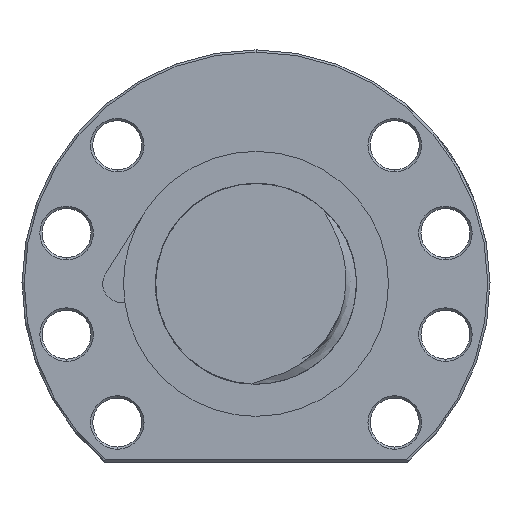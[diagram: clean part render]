
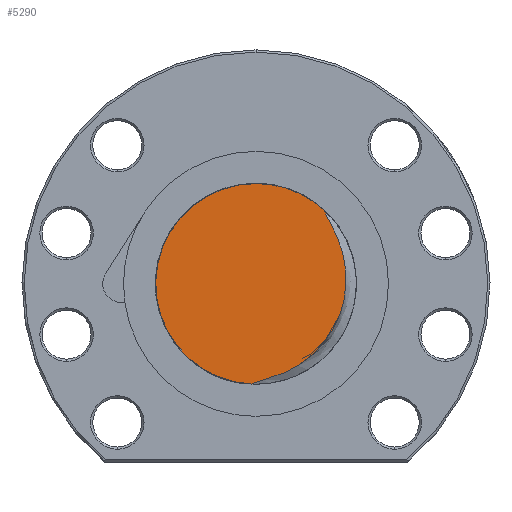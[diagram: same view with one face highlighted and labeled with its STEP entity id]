
A CAD part, left-side view. The second image highlights one B-rep face of the part: STEP entity #5290.
In plain terms, the highlighted planar face has unit normal (-1, 0, 0).
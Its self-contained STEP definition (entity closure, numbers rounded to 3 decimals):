
#5143 = EDGE_CURVE ( 'NONE', #5144, #5145, #37319, .T. ) ;
#5144 = VERTEX_POINT ( 'NONE', #37315 ) ;
#5145 = VERTEX_POINT ( 'NONE', #37310 ) ;
#5261 = ORIENTED_EDGE ( 'NONE', *, *, #5143, .F. ) ;
#5262 = ORIENTED_EDGE ( 'NONE', *, *, #5297, .T. ) ;
#5271 = EDGE_LOOP ( 'NONE', ( #5261, #5262, #5298 ) ) ;
#5290 = ADVANCED_FACE ( 'NONE', ( #38228 ), #38222, .F. ) ;
#5297 = EDGE_CURVE ( 'NONE', #5144, #5355, #38300, .T. ) ;
#5298 = ORIENTED_EDGE ( 'NONE', *, *, #5354, .F. ) ;
#5354 = EDGE_CURVE ( 'NONE', #5145, #5355, #32913, .T. ) ;
#5355 = VERTEX_POINT ( 'NONE', #32903 ) ;
#32903 = CARTESIAN_POINT ( 'NONE',  ( -295., -15.168, 16.619 ) ) ;
#32904 = DIRECTION ( 'NONE',  ( 0., 1., 0. ) ) ;
#32905 = DIRECTION ( 'NONE',  ( 1., 0., 0. ) ) ;
#32906 = CARTESIAN_POINT ( 'NONE',  ( -295., 0., 0. ) ) ;
#32907 = AXIS2_PLACEMENT_3D ( 'NONE', #32906, #32905, #32904 ) ;
#32913 = CIRCLE ( 'NONE', #32907, 22.5 ) ;
#37310 = CARTESIAN_POINT ( 'NONE',  ( -295., 0., 22.5 ) ) ;
#37311 = DIRECTION ( 'NONE',  ( 0., 1., 0. ) ) ;
#37312 = DIRECTION ( 'NONE',  ( 1., 0., 0. ) ) ;
#37313 = CARTESIAN_POINT ( 'NONE',  ( -295., 0., 0. ) ) ;
#37314 = AXIS2_PLACEMENT_3D ( 'NONE', #37313, #37312, #37311 ) ;
#37315 = CARTESIAN_POINT ( 'NONE',  ( -295., 1.025, -22.477 ) ) ;
#37319 = CIRCLE ( 'NONE', #37314, 22.5 ) ;
#38222 = PLANE ( 'NONE',  #38304 ) ;
#38228 = FACE_OUTER_BOUND ( 'NONE', #5271, .T. ) ;
#38274 = CARTESIAN_POINT ( 'NONE',  ( -295., -18.069, -8.653 ) ) ;
#38275 = CARTESIAN_POINT ( 'NONE',  ( -295., -17.591, -9.605 ) ) ;
#38276 = CARTESIAN_POINT ( 'NONE',  ( -295., -17.333, -10.076 ) ) ;
#38277 = CARTESIAN_POINT ( 'NONE',  ( -295., -16.516, -11.448 ) ) ;
#38278 = CARTESIAN_POINT ( 'NONE',  ( -295., -15.912, -12.316 ) ) ;
#38279 = CARTESIAN_POINT ( 'NONE',  ( -295., -14.587, -13.96 ) ) ;
#38280 = CARTESIAN_POINT ( 'NONE',  ( -295., -13.867, -14.737 ) ) ;
#38281 = CARTESIAN_POINT ( 'NONE',  ( -295., -12.698, -15.833 ) ) ;
#38282 = CARTESIAN_POINT ( 'NONE',  ( -295., -12.295, -16.185 ) ) ;
#38283 = CARTESIAN_POINT ( 'NONE',  ( -295., -11.473, -16.857 ) ) ;
#38284 = CARTESIAN_POINT ( 'NONE',  ( -295., -11.052, -17.177 ) ) ;
#38285 = CARTESIAN_POINT ( 'NONE',  ( -295., -9.762, -18.094 ) ) ;
#38286 = CARTESIAN_POINT ( 'NONE',  ( -295., -8.865, -18.646 ) ) ;
#38287 = CARTESIAN_POINT ( 'NONE',  ( -295., -7.469, -19.392 ) ) ;
#38288 = CARTESIAN_POINT ( 'NONE',  ( -295., -6.995, -19.627 ) ) ;
#38289 = CARTESIAN_POINT ( 'NONE',  ( -295., -6.031, -20.07 ) ) ;
#38290 = CARTESIAN_POINT ( 'NONE',  ( -295., -5.539, -20.279 ) ) ;
#38291 = CARTESIAN_POINT ( 'NONE',  ( -295., -4.05, -20.866 ) ) ;
#38292 = CARTESIAN_POINT ( 'NONE',  ( -295., -3.038, -21.201 ) ) ;
#38293 = CARTESIAN_POINT ( 'NONE',  ( -295., -1.507, -21.662 ) ) ;
#38294 = CARTESIAN_POINT ( 'NONE',  ( -295., -0.994, -21.808 ) ) ;
#38295 = CARTESIAN_POINT ( 'NONE',  ( -295., -0.228, -22.036 ) ) ;
#38296 = CARTESIAN_POINT ( 'NONE',  ( -295., 0.027, -22.114 ) ) ;
#38297 = CARTESIAN_POINT ( 'NONE',  ( -295., 0.532, -22.281 ) ) ;
#38298 = CARTESIAN_POINT ( 'NONE',  ( -295., 0.783, -22.369 ) ) ;
#38299 = CARTESIAN_POINT ( 'NONE',  ( -295., 1.025, -22.477 ) ) ;
#38300 = B_SPLINE_CURVE_WITH_KNOTS ( 'NONE', 3,
 ( #38299, #38298, #38297, #38296, #38295, #38294, #38293, #38292, #38291, #38290, #38289, #38288, #38287, #38286, #38285, #38284, #38283, #38282, #38281, #38280, #38279, #38278, #38277, #38276, #38275, #38274, #38340, #38339, #38338, #38337, #38336, #38335, #38334, #38333, #38332, #38331, #38330, #38329, #38328, #38327, #38326, #38325, #38324, #38323, #38322, #38321, #38320, #38319, #38318, #38317 ),
 .UNSPECIFIED., .F., .F.,
 ( 4, 2, 2, 2, 2, 2, 2, 2, 2, 2, 2, 2, 2, 2, 2, 2, 2, 2, 2, 2, 2, 2, 2, 2, 4 ),
 ( 0.001, 0.001, 0.002, 0.004, 0.007, 0.009, 0.01, 0.013, 0.015, 0.016, 0.02, 0.023, 0.024, 0.026, 0.029, 0.031, 0.032, 0.036, 0.039, 0.042, 0.045, 0.048, 0.05, 0.051, 0.051 ),
 .UNSPECIFIED. ) ;
#38301 = DIRECTION ( 'NONE',  ( 0., 0., -1. ) ) ;
#38302 = DIRECTION ( 'NONE',  ( 1., 0., 0. ) ) ;
#38303 = CARTESIAN_POINT ( 'NONE',  ( -295., 0., 0. ) ) ;
#38304 = AXIS2_PLACEMENT_3D ( 'NONE', #38303, #38302, #38301 ) ;
#38317 = CARTESIAN_POINT ( 'NONE',  ( -295., -15.168, 16.619 ) ) ;
#38318 = CARTESIAN_POINT ( 'NONE',  ( -295., -15.264, 16.37 ) ) ;
#38319 = CARTESIAN_POINT ( 'NONE',  ( -295., -15.379, 16.129 ) ) ;
#38320 = CARTESIAN_POINT ( 'NONE',  ( -295., -15.619, 15.653 ) ) ;
#38321 = CARTESIAN_POINT ( 'NONE',  ( -295., -15.745, 15.418 ) ) ;
#38322 = CARTESIAN_POINT ( 'NONE',  ( -295., -16.126, 14.714 ) ) ;
#38323 = CARTESIAN_POINT ( 'NONE',  ( -295., -16.385, 14.247 ) ) ;
#38324 = CARTESIAN_POINT ( 'NONE',  ( -295., -17.143, 12.838 ) ) ;
#38325 = CARTESIAN_POINT ( 'NONE',  ( -295., -17.621, 11.884 ) ) ;
#38326 = CARTESIAN_POINT ( 'NONE',  ( -295., -18.473, 9.924 ) ) ;
#38327 = CARTESIAN_POINT ( 'NONE',  ( -295., -18.844, 8.924 ) ) ;
#38328 = CARTESIAN_POINT ( 'NONE',  ( -295., -19.461, 6.89 ) ) ;
#38329 = CARTESIAN_POINT ( 'NONE',  ( -295., -19.706, 5.853 ) ) ;
#38330 = CARTESIAN_POINT ( 'NONE',  ( -295., -20.058, 3.744 ) ) ;
#38331 = CARTESIAN_POINT ( 'NONE',  ( -295., -20.161, 2.688 ) ) ;
#38332 = CARTESIAN_POINT ( 'NONE',  ( -295., -20.225, 0.576 ) ) ;
#38333 = CARTESIAN_POINT ( 'NONE',  ( -295., -20.185, -0.481 ) ) ;
#38334 = CARTESIAN_POINT ( 'NONE',  ( -295., -20.01, -2.067 ) ) ;
#38335 = CARTESIAN_POINT ( 'NONE',  ( -295., -19.933, -2.598 ) ) ;
#38336 = CARTESIAN_POINT ( 'NONE',  ( -295., -19.741, -3.647 ) ) ;
#38337 = CARTESIAN_POINT ( 'NONE',  ( -295., -19.628, -4.166 ) ) ;
#38338 = CARTESIAN_POINT ( 'NONE',  ( -295., -19.233, -5.704 ) ) ;
#38339 = CARTESIAN_POINT ( 'NONE',  ( -295., -18.899, -6.705 ) ) ;
#38340 = CARTESIAN_POINT ( 'NONE',  ( -295., -18.29, -8.17 ) ) ;
